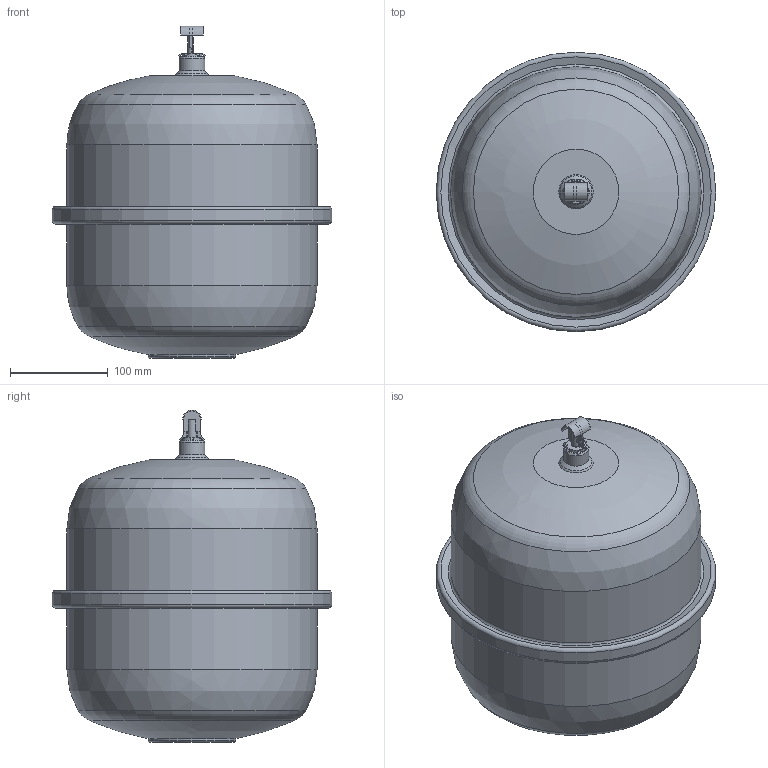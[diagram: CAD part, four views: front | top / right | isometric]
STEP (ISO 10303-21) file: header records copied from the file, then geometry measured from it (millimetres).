
FILE_DESCRIPTION(/* description */ (''),/* implementation_level */ '2;1');
FILE_NAME(/* name */ '\\DATASERVER\data\Flamco\3D-Modellen\Inventor\Airfix\Airfix A\24348_airfix_a_12l_10_3.stp',/* time_stamp */ '2025-05-06T11:14:59+02:00',/* author */ ('kasius'),/* organization */ (''),/* preprocessor_version */ 'ST-DEVELOPER v18.1',/* originating_system */ 'Autodesk Inventor 2021',/* authorisation */ '');
FILE_SCHEMA (('AUTOMOTIVE_DESIGN { 1 0 10303 214 3 1 1 }'));
Length unit declared in the file: millimetre
Products named in the file (1): 24348_airfix_a_12l_10_3
Bounding box: 286 x 286 x 339.72 mm (x, y, z)
Volume: 13261170.9 mm3; surface area: 324742.1 mm2
Topology: 2 solids, 2 shells, 117 faces, 327 edges, 221 vertices
Faces by surface type: plane 78, cylinder 18, cone 9, torus 8, bspline 2, sphere 2
Full cylindrical faces by diameter (mm): 7 x1, 8.8 x1, 9 x1, 12.5 x1, 16 x1, 18 x1, 20 x1, 20.8 x1, 26 x1, 90 x1, 256 x2, 286 x1
Entity records: 4031 total; most frequent: CARTESIAN_POINT 718, DIRECTION 682, ORIENTED_EDGE 654, EDGE_CURVE 327, AXIS2_PLACEMENT_3D 239, VERTEX_POINT 221, LINE 204, VECTOR 204
